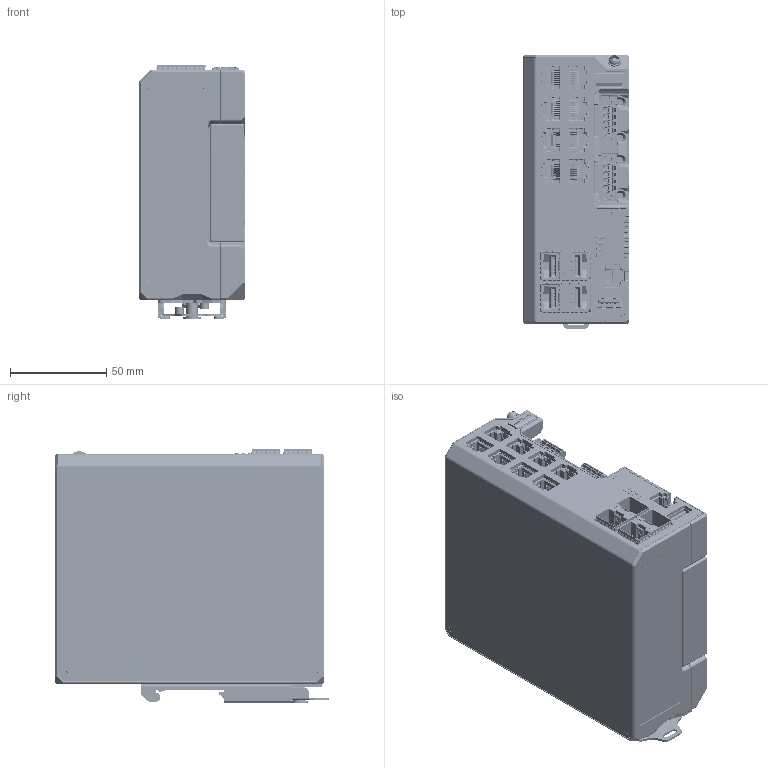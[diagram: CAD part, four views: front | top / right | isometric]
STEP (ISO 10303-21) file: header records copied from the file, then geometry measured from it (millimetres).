
FILE_DESCRIPTION((''),'2;1');
FILE_NAME('00_EDS_4000_V3_ASM','2022-01-05T13:12:39',('YoungMH_Yang'),('PTC'),'CREO PARAMETRIC BY PTC INC, 2018020','CREO PARAMETRIC BY PTC INC, 2018020','');
FILE_SCHEMA(('AUTOMOTIVE_DESIGN { 1 0 10303 214 1 1 1 1 }'));
Products named in the file (37): EDS_4000_BOT_COVER_MAIN; EDS_4000_BOT_PIN; EDS_4000_BOT_COVER_MAIN_ASM; 1126801070323_TE; EDS_4000_N1M; EDS_4000_PCB_MAIN_ASM; EDS_G4012_FPNL_8P_4MGS; EDS_4000_FPNL_MAIN_ASM; EDS_4000_RIGHT_COVER; EDS_4000_LIGHT_PIPE; EDS_4000_LIGHT_PIPE_ADHESIVE; EDS_4000_LIGHT_PIPE_ASM; EDS_4000_RUBBER_DOOR_SD; EDS_4000_RIGHT_COVER_ASM; PSN0000051963_ADAM_YOUNG; 1126801030111_MICRO_SD_CONN; 1126801030111_COSMISM_ASM; 1109020000110_DIPTRONICS_SWC; EDS_4000_DIPS_NDA-05KV; EDS_4000_IO_USB; EDS_4000_PCB_IO_ASM; EDS_4000_PWR_COVER_METAL; EDS_4000_PWR_CUBE_CASE_ASM; EDS_4000_DINKLE_ECH350RM-04PL; EDS_4000_DINKLE_0221-2804; PSNXXXXXXXXXX_DINKLE_YOUNG_ASM; EDS_4000_PWRC_PCB_ASM; EDS_4000_PWRC_PCB_HV_ASM; EDS_4000_LABEL; 00_EDS_4000_PWR_ASM; 1402211060612_SCREW_ETW_M4X6; KY-LP-LEM-133; EDS_4000_POWER_M4_SCREW_V2; SCREW_M2X3; GREEN_CORE_H65; 00_EDS_4000_DIN_RAIL; 00_EDS_4000_V3_ASM
Assembly tree (57 placements, depth 5):
  00_EDS_4000_V3_ASM
    EDS_4000_BOT_COVER_MAIN_ASM
      EDS_4000_BOT_COVER_MAIN
      EDS_4000_BOT_PIN  x2
    EDS_4000_PCB_MAIN_ASM
      1126801070323_TE  x2
      EDS_4000_N1M  x4
    EDS_4000_FPNL_MAIN_ASM
      EDS_G4012_FPNL_8P_4MGS
    EDS_4000_RIGHT_COVER_ASM
      EDS_4000_RIGHT_COVER
      EDS_4000_LIGHT_PIPE_ASM
        EDS_4000_LIGHT_PIPE
        EDS_4000_LIGHT_PIPE_ADHESIVE
      EDS_4000_RUBBER_DOOR_SD
    EDS_4000_PCB_IO_ASM
      PSN0000051963_ADAM_YOUNG
      1126801030111_COSMISM_ASM
        1126801030111_MICRO_SD_CONN
      1109020000110_DIPTRONICS_SWC
      EDS_4000_DIPS_NDA-05KV
      EDS_4000_IO_USB
    00_EDS_4000_PWR_ASM
      EDS_4000_PWR_CUBE_CASE_ASM
        EDS_4000_PWR_COVER_METAL
      EDS_4000_PWRC_PCB_ASM
        PSNXXXXXXXXXX_DINKLE_YOUNG_ASM  x2
          EDS_4000_DINKLE_ECH350RM-04PL
          EDS_4000_DINKLE_0221-2804
      EDS_4000_PWRC_PCB_HV_ASM
        PSNXXXXXXXXXX_DINKLE_YOUNG_ASM  x2
          EDS_4000_DINKLE_ECH350RM-04PL
          EDS_4000_DINKLE_0221-2804
      EDS_4000_LABEL
    1402211060612_SCREW_ETW_M4X6
    KY-LP-LEM-133  x8
    EDS_4000_POWER_M4_SCREW_V2  x2
    SCREW_M2X3  x6
    GREEN_CORE_H65
    00_EDS_4000_DIN_RAIL
Bounding box: 55 x 142.5 x 132.3 mm (x, y, z)
Volume: 205642.7 mm3; surface area: 303636.6 mm2
Topology: 114 solids, 156 shells, 51405 faces, 141861 edges, 89930 vertices
Faces by surface type: plane 33404, cylinder 11425, extrusion 1839, bspline 1568, cone 1280, sphere 931, torus 926, revolution 32
Entity records: 866071 total; most frequent: CARTESIAN_POINT 196909, ORIENTED_EDGE 108764, DIRECTION 99046, EDGE_CURVE 54434, VECTOR 38562, LINE 38088, PRESENTATION_STYLE_ASSIGNMENT 36758, STYLED_ITEM 34970
